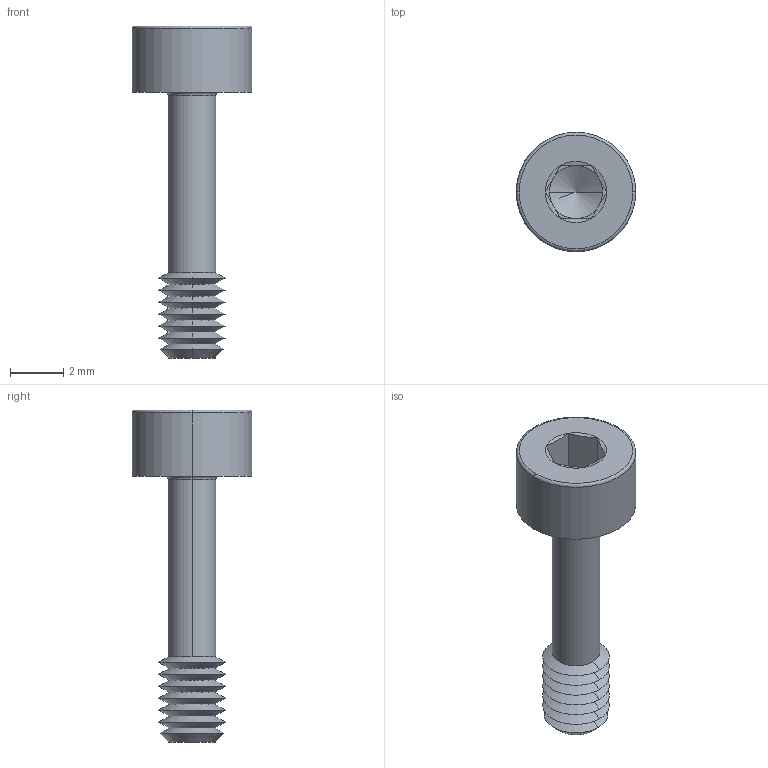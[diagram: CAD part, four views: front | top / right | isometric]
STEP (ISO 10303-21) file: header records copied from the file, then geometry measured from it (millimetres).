
FILE_DESCRIPTION (( 'STEP AP203' ), '1' );
FILE_NAME ('P0154.025-010-BL.step', '2024-06-17T11:21:32', ( '' ), ( '' ), 'SwSTEP 2.0', 'SolidWorks 2019', '' );
FILE_SCHEMA (( 'CONFIG_CONTROL_DESIGN' ));
Length unit declared in the file: millimetre
Products named in the file (1): P0154.025-010-BL
Bounding box: 4.5 x 4.5 x 12.5 mm (x, y, z)
Volume: 60.8 mm3; surface area: 159.8 mm2
Topology: 1 solids, 1 shells, 59 faces, 120 edges, 63 vertices
Faces by surface type: cone 36, plane 15, torus 4, cylinder 4
Entity records: 1587 total; most frequent: DIRECTION 292, CARTESIAN_POINT 267, ORIENTED_EDGE 236, AXIS2_PLACEMENT_3D 120, EDGE_CURVE 118, VERTEX_POINT 63, EDGE_LOOP 61, CIRCLE 60
